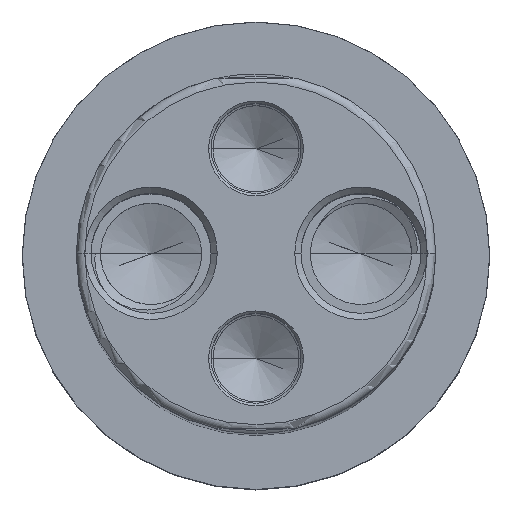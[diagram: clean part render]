
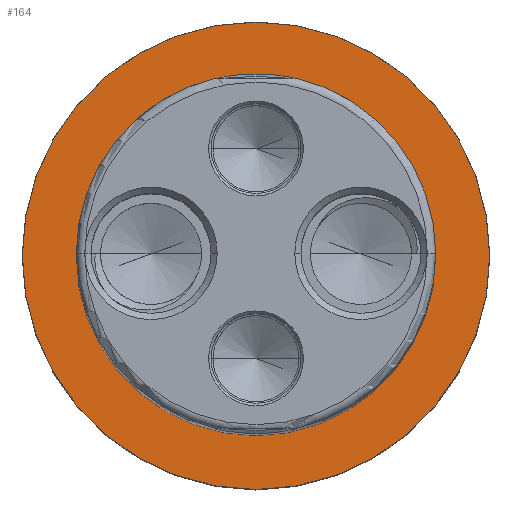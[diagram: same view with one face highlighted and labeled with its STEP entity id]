
A CAD part, top view. The second image highlights one B-rep face of the part: STEP entity #164.
In plain terms, the highlighted planar face has unit normal (0, 0, 1).
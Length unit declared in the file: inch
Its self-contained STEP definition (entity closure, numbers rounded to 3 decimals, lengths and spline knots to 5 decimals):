
#24 = EDGE_CURVE ( 'NONE', #155, #153, #847, .T. ) ;
#25 = VERTEX_POINT ( 'NONE', #844 ) ;
#104 = EDGE_CURVE ( 'NONE', #153, #155, #1101, .T. ) ;
#105 = EDGE_CURVE ( 'NONE', #112, #25, #1139, .T. ) ;
#112 = VERTEX_POINT ( 'NONE', #1167 ) ;
#153 = VERTEX_POINT ( 'NONE', #1447 ) ;
#155 = VERTEX_POINT ( 'NONE', #1318 ) ;
#160 = ORIENTED_EDGE ( 'NONE', *, *, #105, .F. ) ;
#162 = EDGE_LOOP ( 'NONE', ( #160, #216 ) ) ;
#164 = ADVANCED_FACE ( 'NONE', ( #1312, #1317 ), #1440, .T. ) ;
#165 = EDGE_LOOP ( 'NONE', ( #170, #169 ) ) ;
#169 = ORIENTED_EDGE ( 'NONE', *, *, #24, .T. ) ;
#170 = ORIENTED_EDGE ( 'NONE', *, *, #104, .T. ) ;
#171 = EDGE_CURVE ( 'NONE', #25, #112, #1404, .T. ) ;
#216 = ORIENTED_EDGE ( 'NONE', *, *, #171, .F. ) ;
#801 = DIRECTION ( 'NONE',  ( 1., 0., 0. ) ) ;
#802 = DIRECTION ( 'NONE',  ( 0., 0., 1. ) ) ;
#803 = CARTESIAN_POINT ( 'NONE',  ( 0., 0., -5.875 ) ) ;
#804 = AXIS2_PLACEMENT_3D ( 'NONE', #803, #802, #801 ) ;
#844 = CARTESIAN_POINT ( 'NONE',  ( 0.74925, 0., -5.875 ) ) ;
#847 = CIRCLE ( 'NONE', #804, 0.97425 ) ;
#1070 = DIRECTION ( 'NONE',  ( 0., 0., 1. ) ) ;
#1074 = AXIS2_PLACEMENT_3D ( 'NONE', #1160, #1159, #1168 ) ;
#1094 = AXIS2_PLACEMENT_3D ( 'NONE', #1175, #1070, #1172 ) ;
#1101 = CIRCLE ( 'NONE', #1094, 0.97425 ) ;
#1139 = CIRCLE ( 'NONE', #1074, 0.74925 ) ;
#1159 = DIRECTION ( 'NONE',  ( 0., 0., 1. ) ) ;
#1160 = CARTESIAN_POINT ( 'NONE',  ( 0., 0., -5.875 ) ) ;
#1167 = CARTESIAN_POINT ( 'NONE',  ( -0.74925, 0., -5.875 ) ) ;
#1168 = DIRECTION ( 'NONE',  ( 1., 0., 0. ) ) ;
#1172 = DIRECTION ( 'NONE',  ( 1., 0., 0. ) ) ;
#1175 = CARTESIAN_POINT ( 'NONE',  ( 0., 0., -5.875 ) ) ;
#1312 = FACE_OUTER_BOUND ( 'NONE', #165, .T. ) ;
#1317 = FACE_BOUND ( 'NONE', #162, .T. ) ;
#1318 = CARTESIAN_POINT ( 'NONE',  ( 0.97425, 0., -5.875 ) ) ;
#1400 = DIRECTION ( 'NONE',  ( 1., 0., 0. ) ) ;
#1401 = DIRECTION ( 'NONE',  ( 0., 0., 1. ) ) ;
#1402 = CARTESIAN_POINT ( 'NONE',  ( 0., 0., -5.875 ) ) ;
#1403 = AXIS2_PLACEMENT_3D ( 'NONE', #1402, #1401, #1400 ) ;
#1404 = CIRCLE ( 'NONE', #1403, 0.74925 ) ;
#1436 = DIRECTION ( 'NONE',  ( 1., 0., 0. ) ) ;
#1437 = DIRECTION ( 'NONE',  ( 0., 0., 1. ) ) ;
#1438 = CARTESIAN_POINT ( 'NONE',  ( 0., 0., -5.875 ) ) ;
#1439 = AXIS2_PLACEMENT_3D ( 'NONE', #1438, #1437, #1436 ) ;
#1440 = PLANE ( 'NONE',  #1439 ) ;
#1447 = CARTESIAN_POINT ( 'NONE',  ( -0.97425, 0., -5.875 ) ) ;
